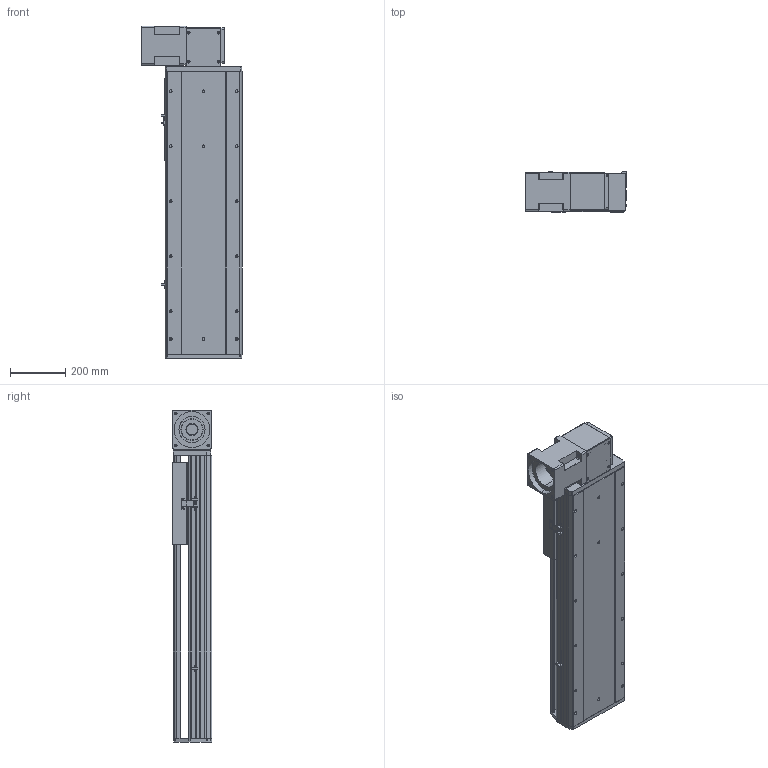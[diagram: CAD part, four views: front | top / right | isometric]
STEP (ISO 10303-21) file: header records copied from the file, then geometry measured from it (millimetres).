
FILE_DESCRIPTION (( 'STEP AP214' ), '1' );
FILE_NAME ('RTB28R-XX-600-BR-M100-XX-C4.STEP', '2025-12-22T01:08:08', ( '' ), ( '' ), 'SwSTEP 2.0', 'SolidWorks 2018', '' );
FILE_SCHEMA (( 'AUTOMOTIVE_DESIGN' ));
Length unit declared in the file: millimetre
Products named in the file (4): RTB28S-GY-008^RTB28R-XX-XX-BR-M100-XX-C4; RTB28S-GY-004^RTB28R-XX-XX-BR-M100-XX-C4; RTB28S-GY-011^RTB28R-XX-XX-BR-M100-XX-C4; RTB28R-XX-600-BR-M100-XX-C4
Assembly tree (3 placements, depth 2):
  RTB28R-XX-600-BR-M100-XX-C4
    RTB28S-GY-011^RTB28R-XX-XX-BR-M100-XX-C4
    RTB28S-GY-004^RTB28R-XX-XX-BR-M100-XX-C4
    RTB28S-GY-008^RTB28R-XX-XX-BR-M100-XX-C4
Bounding box: 370 x 145 x 1207 mm (x, y, z)
Volume: 23312117.6 mm3; surface area: 2293624.8 mm2
Topology: 3 solids, 4 shells, 968 faces, 2550 edges, 1636 vertices
Faces by surface type: plane 452, cylinder 345, bspline 87, cone 80, torus 4
Entity records: 41230 total; most frequent: CARTESIAN_POINT 10945, ORIENTED_EDGE 5036, DIRECTION 4866, EDGE_CURVE 2518, AXIS2_PLACEMENT_3D 1657, VERTEX_POINT 1636, VECTOR 1552, LINE 1552
